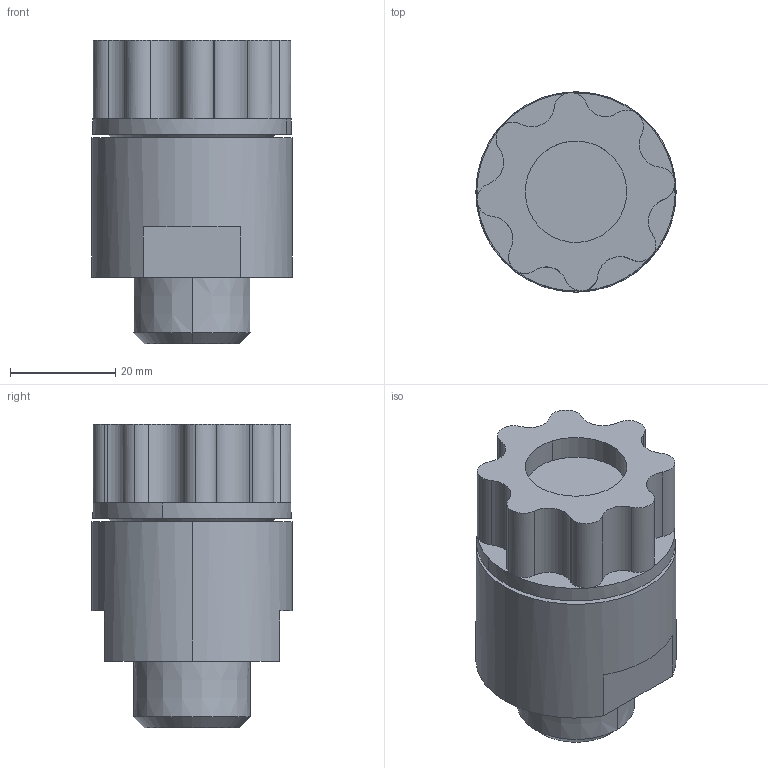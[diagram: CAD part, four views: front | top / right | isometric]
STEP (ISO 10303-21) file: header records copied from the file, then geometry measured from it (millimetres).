
FILE_DESCRIPTION (( 'STEP AP214' ), '1' );
FILE_NAME ('Fitting Synchro-Flare 12.STEP', '2012-09-26T18:06:41', ( '' ), ( '' ), 'SwSTEP 2.0', 'SolidWorks 2012', '' );
FILE_SCHEMA (( 'AUTOMOTIVE_DESIGN' ));
Length unit declared in the file: inch
Products named in the file (1): Fitting Synchro-Flare 12
Bounding box: 38.1 x 38.1 x 57.76 mm (x, y, z)
Volume: 49986.8 mm3; surface area: 9614.4 mm2
Topology: 1 solids, 1 shells, 53 faces, 131 edges, 84 vertices
Faces by surface type: cylinder 29, plane 18, cone 6
Entity records: 1692 total; most frequent: DIRECTION 327, CARTESIAN_POINT 269, ORIENTED_EDGE 262, AXIS2_PLACEMENT_3D 142, EDGE_CURVE 131, CIRCLE 88, VERTEX_POINT 84, EDGE_LOOP 57
